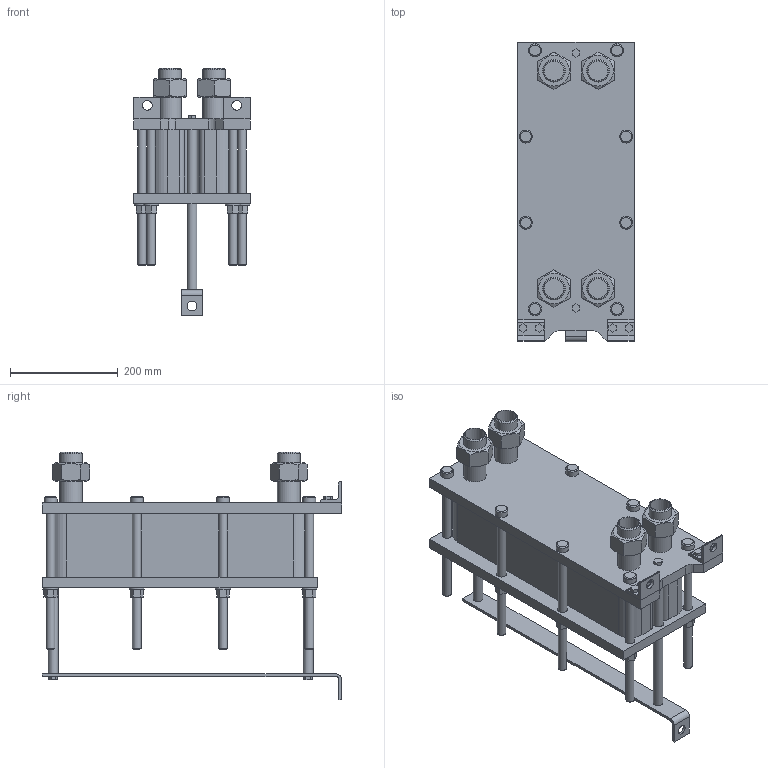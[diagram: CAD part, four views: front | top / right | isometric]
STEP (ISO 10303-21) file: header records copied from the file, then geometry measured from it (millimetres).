
FILE_DESCRIPTION(/* description */ (''),/* implementation_level */ '2;1');
FILE_NAME(/* name */ 'C:\Users\zhuro\Desktop\ENCO\TO\ЭН-004\ЭН-0,5-004-38-1.stp',/* time_stamp */ '2022-06-06T10:46:09+03:00',/* author */ ('zhuro'),/* organization */ (''),/* preprocessor_version */ 'ST-DEVELOPER v18.1',/* originating_system */ 'Autodesk Inventor 2022',/* authorisation */ '');
FILE_SCHEMA (('AUTOMOTIVE_DESIGN { 1 0 10303 214 3 1 1 }'));
Length unit declared in the file: millimetre
Products named in the file (1): ЭН-0,5-004-38-1
Bounding box: 216 x 555 x 459.4 mm (x, y, z)
Volume: 14371420.6 mm3; surface area: 1214095.1 mm2
Topology: 40 solids, 40 shells, 403 faces, 865 edges, 574 vertices
Faces by surface type: plane 272, cylinder 103, cone 28
Full cylindrical faces by diameter (mm): 10 x4, 16 x16, 18 x29, 20 x2, 24 x8, 28 x8, 36.3 x5, 42.3 x9
Entity records: 11137 total; most frequent: CARTESIAN_POINT 1939, DIRECTION 1879, ORIENTED_EDGE 1730, EDGE_CURVE 865, AXIS2_PLACEMENT_3D 658, VERTEX_POINT 574, LINE 563, VECTOR 563
